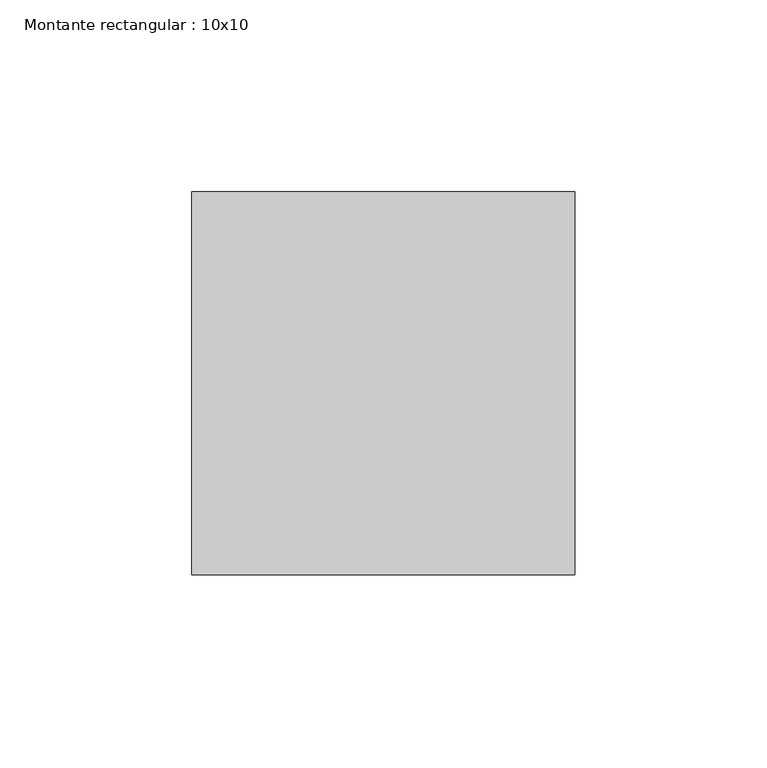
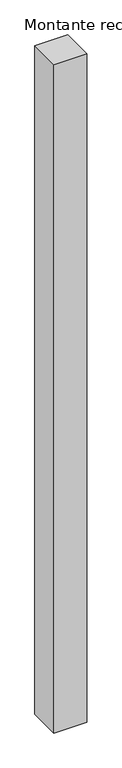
"""IFC4 building model written with IfcOpenShell, lengths in millimetres: member geometry, Montante rectangular : 10x10."""

import ifcopenshell
import ifcopenshell.guid

model = None  # the IFC model being written
_history = None  # IfcOwnerHistory: only IFC2X3 demands one
_inside = {}  # id of a spatial element -> (the spatial element, [elements in it])
_under = {}  # id of a project, library or spatial element -> (it, [spatial elements below it])
_declared = {}  # id of a project -> (the project, [libraries it declares])
_typed = {}  # id of a type object -> (the type object, [elements of that type])
_made_of = {}  # id of a material, layer set ... -> (it, [elements and type objects made of it])


def new_model(schema):
    """Start an empty IFC model of exactly this schema.

    Asked for "IFC4X3", IfcOpenShell would pick the latest addendum, in which some entities
    have other attributes; the version numbers below select the first issue.
    IFC2X3 requires an IfcOwnerHistory on every rooted entity: one is made here for all.
    """
    global model, _history
    if schema == "IFC4X3":
        model = ifcopenshell.file(schema_version=(4, 3, 0, 0))
    else:
        model = ifcopenshell.file(schema=schema)
    _inside.clear()
    _under.clear()
    _declared.clear()
    _typed.clear()
    _made_of.clear()
    _history = None
    if model.schema == "IFC2X3":
        org = make("IfcOrganization", Name="unknown")
        user = make(
            "IfcPersonAndOrganization",
            ThePerson=make("IfcPerson", FamilyName="unknown"),
            TheOrganization=org,
        )
        app = make(
            "IfcApplication",
            ApplicationDeveloper=org,
            Version="unknown",
            ApplicationFullName="unknown",
            ApplicationIdentifier="unknown",
        )
        _history = make(
            "IfcOwnerHistory",
            OwningUser=user,
            OwningApplication=app,
            ChangeAction="ADDED",
            CreationDate=0,
        )
    return model


def make(cls, **values):
    """One entity of the class cls with the attributes given. An attribute that is None is left unset."""
    return model.create_entity(
        cls, **{name: value for name, value in values.items() if value is not None}
    )


def rooted(cls, **values):
    """An entity with a GlobalId (a new one), such as an element, a storey or a relation."""
    return make(cls, GlobalId=ifcopenshell.guid.new(), OwnerHistory=_history, **values)


def si_unit(unit_type, name, prefix=None):
    """IfcSIUnit, for example si_unit("LENGTHUNIT", "METRE", prefix="MILLI")."""
    return make("IfcSIUnit", UnitType=unit_type, Prefix=prefix, Name=name)


def assignment(units):
    """IfcUnitAssignment: the units of a project."""
    return None if units is None else make("IfcUnitAssignment", Units=units)


def point(xyz):
    """IfcCartesianPoint."""
    return None if xyz is None else make("IfcCartesianPoint", Coordinates=xyz)


def direction(xyz):
    """IfcDirection."""
    return None if xyz is None else make("IfcDirection", DirectionRatios=xyz)


def frame(location, z_axis=None, x_axis=None):
    """IfcAxis2Placement3D, a coordinate frame: its origin and axes. An axis left out is left unset."""
    return make(
        "IfcAxis2Placement3D",
        Location=point(location),
        Axis=direction(z_axis),
        RefDirection=direction(x_axis),
    )


def origin():
    """The frame at (0, 0, 0) with its axes left unset."""
    return frame((0.0, 0.0, 0.0))


def place(relative_to, where):
    """IfcLocalPlacement: puts the frame where relative to a parent placement (None: the world)."""
    return make(
        "IfcLocalPlacement", PlacementRelTo=relative_to, RelativePlacement=where
    )


def context(
    kind, dimensions, precision=None, world=None, true_north=None, identifier=None
):
    """IfcGeometricRepresentationContext, for example the 3D "Model" context."""
    return make(
        "IfcGeometricRepresentationContext",
        ContextIdentifier=identifier,
        ContextType=kind,
        CoordinateSpaceDimension=dimensions,
        Precision=precision,
        WorldCoordinateSystem=world,
        TrueNorth=true_north,
    )


def project(units=None, contexts=None):
    """IfcProject with its units and contexts."""
    return rooted(
        "IfcProject",
        Name="project",
        RepresentationContexts=contexts,
        UnitsInContext=assignment(units),
    )


def spatial(cls, under=None, at=None, **own):
    """A site, building, storey or space (cls), placed at a placement, below another one or the project."""
    s = rooted(cls, ObjectPlacement=at, **own)
    if under is not None:
        _under.setdefault(under.id(), (under, []))[1].append(s)
    return s


def polyline(points):
    """IfcPolyline through the points."""
    return make("IfcPolyline", Points=[point(p) for p in points])


def outline(outer, holes=None, kind="AREA"):
    """IfcArbitraryClosedProfileDef: a profile drawn as a closed curve; with holes, ...WithVoids."""
    if holes is None:
        return make("IfcArbitraryClosedProfileDef", ProfileType=kind, OuterCurve=outer)
    return make(
        "IfcArbitraryProfileDefWithVoids",
        ProfileType=kind,
        OuterCurve=outer,
        InnerCurves=holes,
    )


def extrude(swept, where, along, depth):
    """IfcExtrudedAreaSolid: the profile swept, set in the frame where, extruded along a direction by depth."""
    return make(
        "IfcExtrudedAreaSolid",
        SweptArea=swept,
        Position=where,
        ExtrudedDirection=direction(along),
        Depth=depth,
    )


def shape(context_of_items, identifier, shape_type, items):
    """IfcShapeRepresentation: the items that make up one representation, for example the "Body"."""
    return make(
        "IfcShapeRepresentation",
        ContextOfItems=context_of_items,
        RepresentationIdentifier=identifier,
        RepresentationType=shape_type,
        Items=items,
    )


def source(mapping_origin, context_of_items, identifier, shape_type, items):
    """IfcRepresentationMap: a shape defined once, which mapped items show again and again."""
    return make(
        "IfcRepresentationMap",
        MappingOrigin=mapping_origin,
        MappedRepresentation=shape(context_of_items, identifier, shape_type, items),
    )


def transform(
    local_origin,
    x_axis=None,
    y_axis=None,
    z_axis=None,
    scale=None,
    scale2=None,
    scale3=None,
    uniform=True,
):
    """IfcCartesianTransformationOperator3D, or its non-uniform kind. x_axis, y_axis, z_axis: its Axis1, 2, 3."""
    if uniform:
        return make(
            "IfcCartesianTransformationOperator3D",
            Axis1=direction(x_axis),
            Axis2=direction(y_axis),
            LocalOrigin=point(local_origin),
            Scale=scale,
            Axis3=direction(z_axis),
        )
    return make(
        "IfcCartesianTransformationOperator3DnonUniform",
        Axis1=direction(x_axis),
        Axis2=direction(y_axis),
        LocalOrigin=point(local_origin),
        Scale=scale,
        Axis3=direction(z_axis),
        Scale2=scale2,
        Scale3=scale3,
    )


def mapped(mapping_source, mapping_target):
    """IfcMappedItem: shows the shape of a source again, moved by a transform."""
    return make(
        "IfcMappedItem", MappingSource=mapping_source, MappingTarget=mapping_target
    )


def made_of(thing, what):
    """Note that an element or type object is made of a material, layer set ...; save() writes the relation."""
    if what is not None:
        _made_of.setdefault(what.id(), (what, []))[1].append(thing)
    return thing


def element(
    cls,
    number,
    at=None,
    inside=None,
    cuts=None,
    type_object=None,
    material=None,
    context=None,
    identifier="Body",
    shape_type=None,
    held_by="IfcProductDefinitionShape",
    body=None,
    shapes=None,
    **own,
):
    """One element of the class cls, such as IfcWall. Its Tag is "e" and its number.

    at: its placement. inside: the storey or other place that contains it. cuts: it is an
    opening in that element (IfcRelVoidsElement). A single representation is given by context,
    identifier, shape_type and body (its items); several are given by shapes. held_by: the class
    of the entity that holds the representations. save() writes the other relations.
    """
    e = rooted(cls, Tag="e%d" % number, ObjectPlacement=at, **own)
    if body is not None:
        shapes = [shape(context, identifier, shape_type, body)]
    if shapes is not None:
        e.Representation = make(held_by, Representations=shapes)
    if inside is not None:
        _inside.setdefault(inside.id(), (inside, []))[1].append(e)
    if cuts is not None:
        rooted(
            "IfcRelVoidsElement", RelatingBuildingElement=cuts, RelatedOpeningElement=e
        )
    if type_object is not None:
        _typed.setdefault(type_object.id(), (type_object, []))[1].append(e)
    return made_of(e, material)


def aggregate(whole, parts):
    """IfcRelAggregates: a whole, such as a stair, and the parts it consists of."""
    return rooted("IfcRelAggregates", RelatingObject=whole, RelatedObjects=parts)


def save(model, path):
    """Write the relations noted so far, then the file.

    IfcRelAggregates (storeys below a building ...), IfcRelContainedInSpatialStructure (elements
    in a storey), IfcRelDefinesByType, IfcRelAssociatesMaterial and IfcRelDeclares: one each for
    every whole, place, type object, material and project.
    """
    for whole, parts in _under.values():
        aggregate(whole, parts)
    for where, things in _inside.values():
        rooted(
            "IfcRelContainedInSpatialStructure",
            RelatedElements=things,
            RelatingStructure=where,
        )
    for kind, things in _typed.values():
        rooted("IfcRelDefinesByType", RelatedObjects=things, RelatingType=kind)
    for what, things in _made_of.values():
        rooted("IfcRelAssociatesMaterial", RelatedObjects=things, RelatingMaterial=what)
    for by, libraries in _declared.values():
        rooted("IfcRelDeclares", RelatingContext=by, RelatedDefinitions=libraries)
    model.write(path)


def montante_rectangular_10x10_453e8bf0(model_context):
    return source(origin(), model_context, "Body", "SweptSolid", [
        extrude(outline(polyline([(100.0, 50.0), (100.0, -50.0), (0.0, -50.0), (0.0, 50.0), (100.0, 50.0)])), frame((0.0, 0.0, -2150.0), z_axis=(0.0, 0.0, 1.0), x_axis=(1.0, 0.0, 0.0)), (0.0, 0.0, 1.0), 2150.0),
    ])


if __name__ == "__main__":
    model = new_model("IFC4")
    model_context = context("Model", 3, world=origin())
    ifc_project = project(units=[si_unit("LENGTHUNIT", "METRE", prefix="MILLI")], contexts=[model_context])
    site = spatial("IfcSite", under=ifc_project)
    building = spatial("IfcBuilding", under=site)
    placement = place(None, origin())
    montante_rectangular_10x10_shape = montante_rectangular_10x10_453e8bf0(model_context)
    element("IfcMember", 1, ObjectType="Montante rectangular : 10x10", at=placement, inside=building, context=model_context, shape_type="MappedRepresentation", body=[
        mapped(montante_rectangular_10x10_shape, transform((0.0, 0.0, 0.0), x_axis=(1.0, 0.0, 0.0), y_axis=(0.0, 1.0, 0.0), z_axis=(0.0, 0.0, 1.0))),
    ])
    save(model, "model.ifc")
